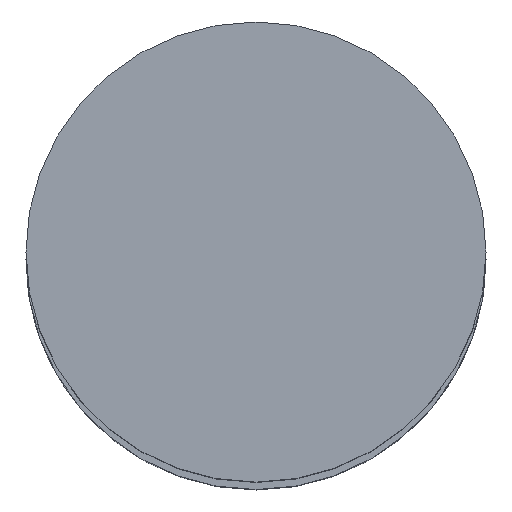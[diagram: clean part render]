
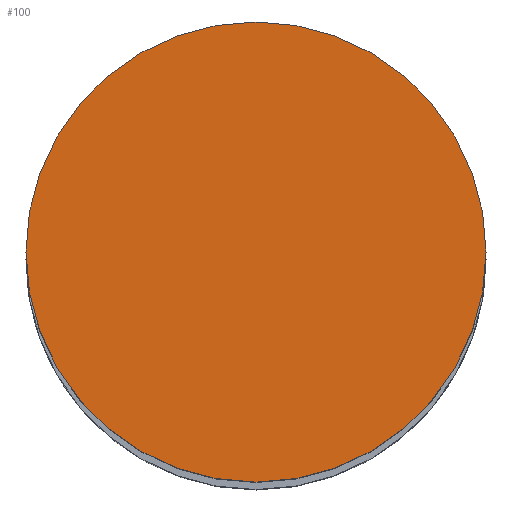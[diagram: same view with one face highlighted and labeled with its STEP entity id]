
A CAD part, top view. The second image highlights one B-rep face of the part: STEP entity #100.
In plain terms, the highlighted planar face has unit normal (0, 0, 1).
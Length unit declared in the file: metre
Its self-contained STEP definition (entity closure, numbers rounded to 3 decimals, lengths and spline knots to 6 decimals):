
#100=ADVANCED_FACE('25:217',(#193),#194,.T.);
#193=FACE_OUTER_BOUND('',#280,.T.);
#194=PLANE('',#281);
#280=EDGE_LOOP('',(#445,#446));
#281=AXIS2_PLACEMENT_3D('',#447,#448,#449);
#445=ORIENTED_EDGE('',*,*,#546,.F.);
#446=ORIENTED_EDGE('',*,*,#536,.F.);
#447=CARTESIAN_POINT('',(0.0,0.0,2.954));
#448=DIRECTION('',(0.0,0.0,1.0));
#449=DIRECTION('',(1.0,0.0,0.0));
#536=EDGE_CURVE('',#649,#651,#652,.F.);
#546=EDGE_CURVE('',#651,#649,#665,.F.);
#649=VERTEX_POINT('',#783);
#651=VERTEX_POINT('',#786);
#652=CIRCLE('',#787,0.0155);
#665=CIRCLE('',#802,0.0155);
#783=CARTESIAN_POINT('',(0.015408,0.000095,2.954));
#786=CARTESIAN_POINT('',(-0.015592,0.000095,2.954));
#787=AXIS2_PLACEMENT_3D('',#906,#907,#908);
#802=AXIS2_PLACEMENT_3D('',#926,#927,#928);
#906=CARTESIAN_POINT('',(-0.000092,0.000095,2.954));
#907=DIRECTION('',(0.0,0.0,1.0));
#908=DIRECTION('',(1.0,0.0,0.0));
#926=CARTESIAN_POINT('',(-0.000092,0.000095,2.954));
#927=DIRECTION('',(0.0,0.0,1.0));
#928=DIRECTION('',(1.0,0.0,0.0));
